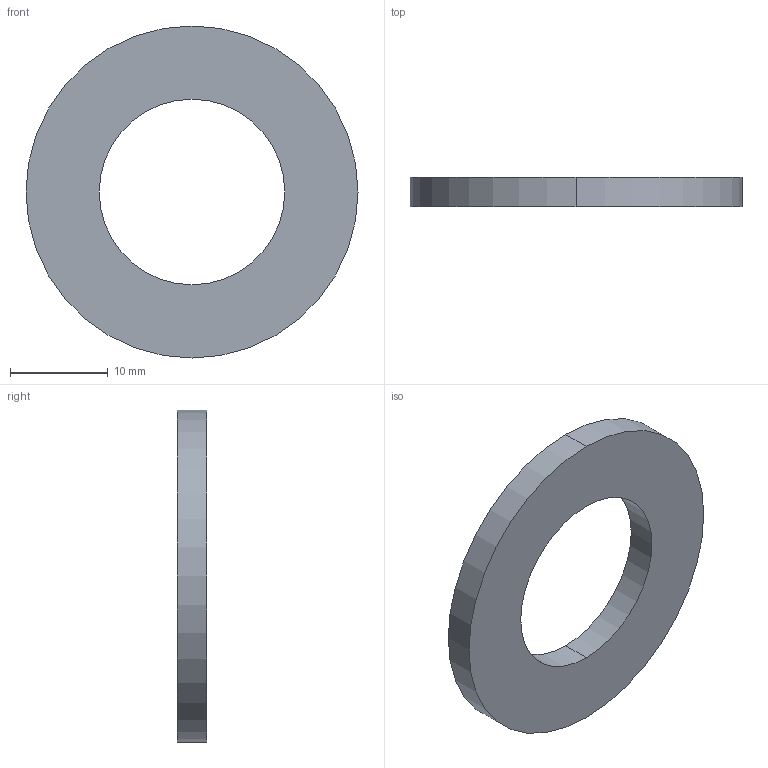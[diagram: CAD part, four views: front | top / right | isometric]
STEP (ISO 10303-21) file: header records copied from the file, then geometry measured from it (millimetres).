
FILE_DESCRIPTION (( 'STEP AP203' ), '1' );
FILE_NAME ('P0330.180-ZP.step', '2018-07-08T17:20:09', ( '' ), ( '' ), 'SwSTEP 2.0', 'SolidWorks 2017', '' );
FILE_SCHEMA (( 'CONFIG_CONTROL_DESIGN' ));
Length unit declared in the file: millimetre
Products named in the file (1): P0330.180-ZP
Bounding box: 34 x 3 x 34 mm (x, y, z)
Volume: 1873.2 mm3; surface area: 1748.3 mm2
Topology: 1 solids, 1 shells, 6 faces, 12 edges, 8 vertices
Faces by surface type: cylinder 4, plane 2
Entity records: 245 total; most frequent: DIRECTION 34, CARTESIAN_POINT 27, ORIENTED_EDGE 24, AXIS2_PLACEMENT_3D 15, EDGE_CURVE 12, VERTEX_POINT 8, PERSON_AND_ORGANIZATION 8, EDGE_LOOP 8
